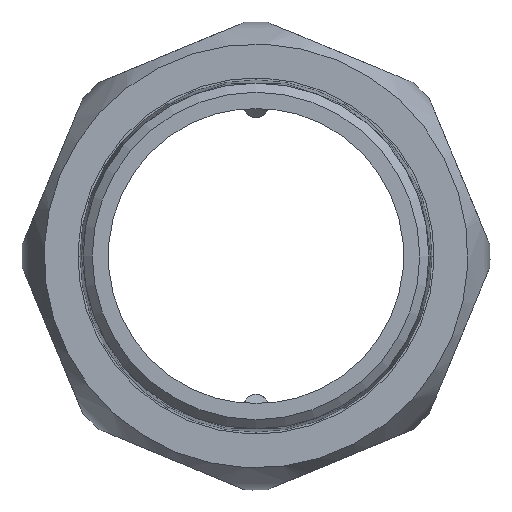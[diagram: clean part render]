
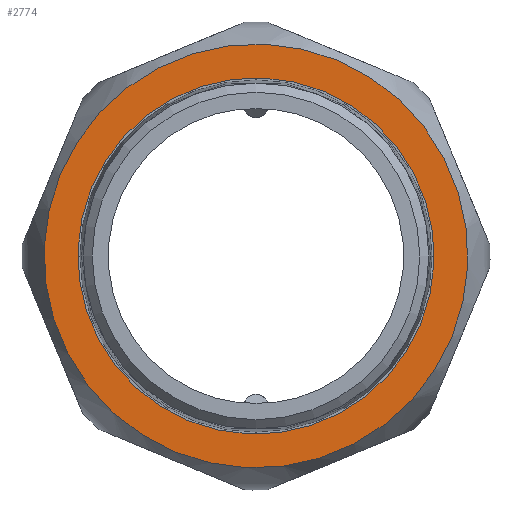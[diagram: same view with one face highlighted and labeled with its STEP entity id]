
A CAD part, left-side view. The second image highlights one B-rep face of the part: STEP entity #2774.
In plain terms, the highlighted planar face has unit normal (-1, 0, 0) as drawn and (1, 0, 0) by its records, which use the part's own axes.
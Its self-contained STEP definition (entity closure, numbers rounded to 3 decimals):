
#2740=CARTESIAN_POINT('',(25.0,36.,0.0));
#2741=VERTEX_POINT('',#2740);
#2742=CARTESIAN_POINT('',(25.0,0.0,0.0));
#2743=DIRECTION('',(1.0,0.0,0.0));
#2744=DIRECTION('',(0.0,1.0,0.0));
#2745=AXIS2_PLACEMENT_3D('',#2742,#2743,#2744);
#2746=CIRCLE('',#2745,36.);
#2747=EDGE_CURVE('',#2741,#2741,#2746,.T.);
#2755=CARTESIAN_POINT('',(25.0,33.125,0.0));
#2756=DIRECTION('',(1.0,0.0,0.0));
#2757=DIRECTION('',(0.0,0.0,-1.0));
#2758=AXIS2_PLACEMENT_3D('',#2755,#2756,#2757);
#2759=PLANE('',#2758);
#2760=ORIENTED_EDGE('',*,*,#2747,.T.);
#2761=EDGE_LOOP('',(#2760));
#2762=FACE_OUTER_BOUND('',#2761,.T.);
#2763=CARTESIAN_POINT('',(25.0,30.25,0.0));
#2764=VERTEX_POINT('',#2763);
#2765=CARTESIAN_POINT('',(25.0,0.0,0.0));
#2766=DIRECTION('',(1.0,0.0,0.0));
#2767=DIRECTION('',(0.0,1.0,0.0));
#2768=AXIS2_PLACEMENT_3D('',#2765,#2766,#2767);
#2769=CIRCLE('',#2768,30.25);
#2770=EDGE_CURVE('',#2764,#2764,#2769,.T.);
#2771=ORIENTED_EDGE('',*,*,#2770,.F.);
#2772=EDGE_LOOP('',(#2771));
#2773=FACE_BOUND('',#2772,.T.);
#2774=ADVANCED_FACE('',(#2762,#2773),#2759,.T.);
